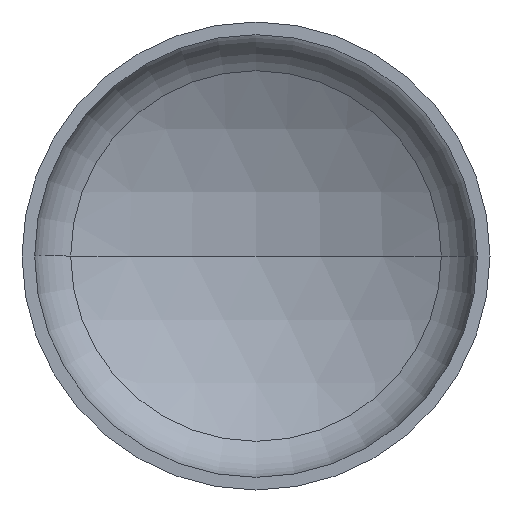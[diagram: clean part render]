
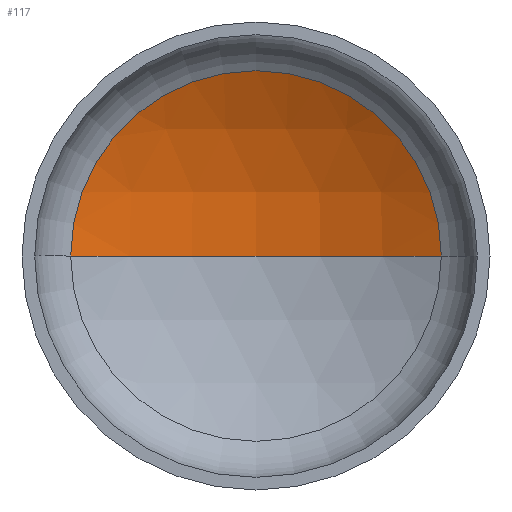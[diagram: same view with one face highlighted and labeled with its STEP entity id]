
A CAD part, front view. The second image highlights one B-rep face of the part: STEP entity #117.
In plain terms, the highlighted spherical face has radius 325 mm.
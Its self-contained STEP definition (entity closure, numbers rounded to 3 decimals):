
#15 = AXIS2_PLACEMENT_3D ( 'NONE', #284, #377, #134 ) ;
#16 = EDGE_LOOP ( 'NONE', ( #107, #83, #23 ) ) ;
#23 = ORIENTED_EDGE ( 'NONE', *, *, #153, .T. ) ;
#33 = VERTEX_POINT ( 'NONE', #296 ) ;
#42 = AXIS2_PLACEMENT_3D ( 'NONE', #286, #119, #125 ) ;
#45 = CIRCLE ( 'NONE', #15, 325. ) ;
#70 = VERTEX_POINT ( 'NONE', #261 ) ;
#83 = ORIENTED_EDGE ( 'NONE', *, *, #369, .T. ) ;
#102 = AXIS2_PLACEMENT_3D ( 'NONE', #122, #310, #163 ) ;
#107 = ORIENTED_EDGE ( 'NONE', *, *, #355, .F. ) ;
#117 = ADVANCED_FACE ( 'NONE', ( #368 ), #128, .F. ) ;
#118 = VERTEX_POINT ( 'NONE', #253 ) ;
#119 = DIRECTION ( 'NONE',  ( 0., 0., 1. ) ) ;
#122 = CARTESIAN_POINT ( 'NONE',  ( 0., 93.869, 0. ) ) ;
#125 = DIRECTION ( 'NONE',  ( 1., 0., 0. ) ) ;
#128 = SPHERICAL_SURFACE ( 'NONE', #132, 325. ) ;
#132 = AXIS2_PLACEMENT_3D ( 'NONE', #252, #345, #344 ) ;
#134 = DIRECTION ( 'NONE',  ( -1., 0., 0. ) ) ;
#153 = EDGE_CURVE ( 'NONE', #70, #33, #407, .T. ) ;
#163 = DIRECTION ( 'NONE',  ( 1., 0., 0. ) ) ;
#252 = CARTESIAN_POINT ( 'NONE',  ( 0., -188.51, 0. ) ) ;
#253 = CARTESIAN_POINT ( 'NONE',  ( 0., 136.49, 0. ) ) ;
#261 = CARTESIAN_POINT ( 'NONE',  ( 160.894, 93.869, 0. ) ) ;
#284 = CARTESIAN_POINT ( 'NONE',  ( 0., -188.51, 0. ) ) ;
#286 = CARTESIAN_POINT ( 'NONE',  ( 0., -188.51, 0. ) ) ;
#296 = CARTESIAN_POINT ( 'NONE',  ( -160.894, 93.869, 0. ) ) ;
#310 = DIRECTION ( 'NONE',  ( 0., -1., 0. ) ) ;
#344 = DIRECTION ( 'NONE',  ( -1., 0., 0. ) ) ;
#345 = DIRECTION ( 'NONE',  ( 0., 0., -1. ) ) ;
#355 = EDGE_CURVE ( 'NONE', #118, #33, #380, .T. ) ;
#368 = FACE_OUTER_BOUND ( 'NONE', #16, .T. ) ;
#369 = EDGE_CURVE ( 'NONE', #118, #70, #45, .T. ) ;
#377 = DIRECTION ( 'NONE',  ( 0., 0., -1. ) ) ;
#380 = CIRCLE ( 'NONE', #42, 325. ) ;
#407 = CIRCLE ( 'NONE', #102, 160.894 ) ;
